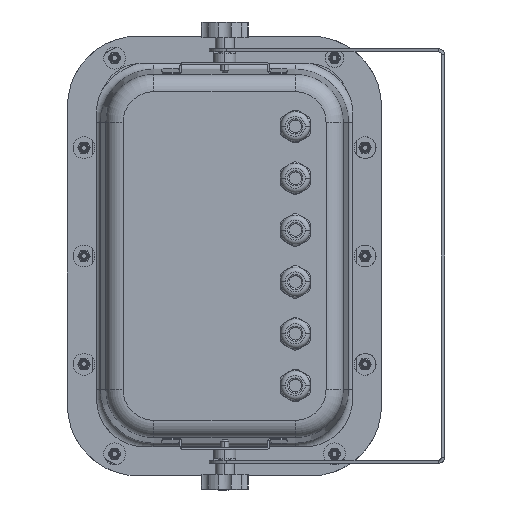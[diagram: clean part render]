
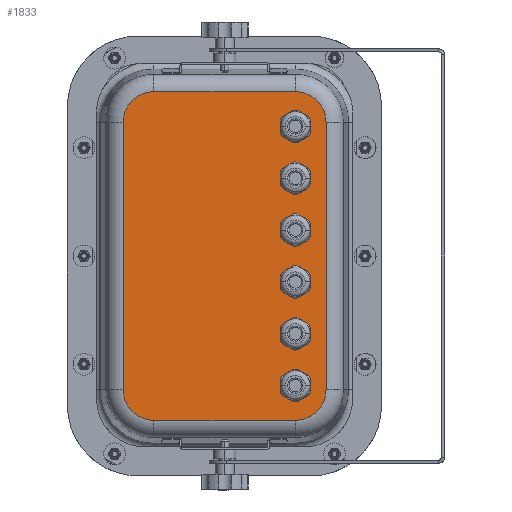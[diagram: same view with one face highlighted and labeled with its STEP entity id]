
A CAD part, left-side view. The second image highlights one B-rep face of the part: STEP entity #1833.
In plain terms, the highlighted planar face has unit normal (-1, 0, 0).
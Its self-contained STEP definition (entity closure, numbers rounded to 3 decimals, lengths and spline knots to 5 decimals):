
#1833=ADVANCED_FACE('1593:216',(#4219,#4220,#4221,#4222,#4223,#4224,#4225),#4226,.T.);
#4219=FACE_OUTER_BOUND('',#22475,.T.);
#4220=FACE_BOUND('',#22476,.T.);
#4221=FACE_BOUND('',#22477,.T.);
#4222=FACE_BOUND('',#22478,.T.);
#4223=FACE_BOUND('',#22479,.T.);
#4224=FACE_BOUND('',#22480,.T.);
#4225=FACE_BOUND('',#22481,.T.);
#4226=PLANE('',#22482);
#22475=EDGE_LOOP('',(#28979,#28980,#28981,#28982,#28983,#28984,#28985,#28986));
#22476=EDGE_LOOP('',(#28987,#28988));
#22477=EDGE_LOOP('',(#28989,#28990));
#22478=EDGE_LOOP('',(#28991,#28992));
#22479=EDGE_LOOP('',(#28993,#28994));
#22480=EDGE_LOOP('',(#28995,#28996));
#22481=EDGE_LOOP('',(#28997,#28998));
#22482=AXIS2_PLACEMENT_3D('',#28999,#29000,#29001);
#28979=ORIENTED_EDGE('',*,*,#37607,.T.);
#28980=ORIENTED_EDGE('',*,*,#37608,.T.);
#28981=ORIENTED_EDGE('',*,*,#37609,.T.);
#28982=ORIENTED_EDGE('',*,*,#37610,.T.);
#28983=ORIENTED_EDGE('',*,*,#37611,.T.);
#28984=ORIENTED_EDGE('',*,*,#37612,.T.);
#28985=ORIENTED_EDGE('',*,*,#37613,.T.);
#28986=ORIENTED_EDGE('',*,*,#37614,.T.);
#28987=ORIENTED_EDGE('',*,*,#37468,.T.);
#28988=ORIENTED_EDGE('',*,*,#37501,.T.);
#28989=ORIENTED_EDGE('',*,*,#37464,.T.);
#28990=ORIENTED_EDGE('',*,*,#37502,.T.);
#28991=ORIENTED_EDGE('',*,*,#37460,.T.);
#28992=ORIENTED_EDGE('',*,*,#37503,.T.);
#28993=ORIENTED_EDGE('',*,*,#37456,.T.);
#28994=ORIENTED_EDGE('',*,*,#37504,.T.);
#28995=ORIENTED_EDGE('',*,*,#37452,.T.);
#28996=ORIENTED_EDGE('',*,*,#37505,.T.);
#28997=ORIENTED_EDGE('',*,*,#37448,.T.);
#28998=ORIENTED_EDGE('',*,*,#37506,.T.);
#28999=CARTESIAN_POINT('',(0.,-0.0965,0.1365));
#29000=DIRECTION('',(-1.0,0.,0.));
#29001=DIRECTION('',(0.,-1.0,0.0));
#37448=EDGE_CURVE('1593:411',#42212,#42209,#42213,.T.);
#37452=EDGE_CURVE('1593:408',#42220,#42217,#42221,.T.);
#37456=EDGE_CURVE('1593:405',#42228,#42225,#42229,.T.);
#37460=EDGE_CURVE('1593:402',#42236,#42233,#42237,.T.);
#37464=EDGE_CURVE('1593:399',#42244,#42241,#42245,.T.);
#37468=EDGE_CURVE('1593:396',#42252,#42249,#42253,.T.);
#37501=EDGE_CURVE('1593:396',#42249,#42252,#42299,.T.);
#37502=EDGE_CURVE('1593:399',#42241,#42244,#42300,.T.);
#37503=EDGE_CURVE('1593:402',#42233,#42236,#42301,.T.);
#37504=EDGE_CURVE('1593:405',#42225,#42228,#42302,.T.);
#37505=EDGE_CURVE('1593:408',#42217,#42220,#42303,.T.);
#37506=EDGE_CURVE('1593:411',#42209,#42212,#42304,.T.);
#37607=EDGE_CURVE('1593:732',#42453,#42454,#42455,.T.);
#37608=EDGE_CURVE('1593:735',#42454,#42456,#42457,.T.);
#37609=EDGE_CURVE('1593:738',#42456,#42458,#42459,.T.);
#37610=EDGE_CURVE('1593:741',#42458,#42460,#42461,.T.);
#37611=EDGE_CURVE('1593:744',#42460,#42462,#42463,.T.);
#37612=EDGE_CURVE('1593:747',#42462,#42464,#42465,.T.);
#37613=EDGE_CURVE('1593:750',#42464,#42466,#42467,.T.);
#37614=EDGE_CURVE('1593:753',#42466,#42453,#42468,.T.);
#42209=VERTEX_POINT('',#51873);
#42212=VERTEX_POINT('',#51876);
#42213=CIRCLE('',#51877,0.0087);
#42217=VERTEX_POINT('',#51881);
#42220=VERTEX_POINT('',#51884);
#42221=CIRCLE('',#51885,0.0087);
#42225=VERTEX_POINT('',#51889);
#42228=VERTEX_POINT('',#51892);
#42229=CIRCLE('',#51893,0.0087);
#42233=VERTEX_POINT('',#51897);
#42236=VERTEX_POINT('',#51900);
#42237=CIRCLE('',#51901,0.0087);
#42241=VERTEX_POINT('',#51905);
#42244=VERTEX_POINT('',#51908);
#42245=CIRCLE('',#51909,0.0087);
#42249=VERTEX_POINT('',#51913);
#42252=VERTEX_POINT('',#51916);
#42253=CIRCLE('',#51917,0.0087);
#42299=CIRCLE('',#51975,0.0087);
#42300=CIRCLE('',#51976,0.0087);
#42301=CIRCLE('',#51977,0.0087);
#42302=CIRCLE('',#51978,0.0087);
#42303=CIRCLE('',#51979,0.0087);
#42304=CIRCLE('',#51980,0.0087);
#42453=VERTEX_POINT('NONE',#52169);
#42454=VERTEX_POINT('NONE',#52170);
#42455=CIRCLE('',#52171,0.01951);
#42456=VERTEX_POINT('NONE',#52172);
#42457=LINE('',#52173,#52174);
#42458=VERTEX_POINT('NONE',#52175);
#42459=CIRCLE('',#52176,0.01951);
#42460=VERTEX_POINT('NONE',#52177);
#42461=LINE('',#52178,#52179);
#42462=VERTEX_POINT('NONE',#52180);
#42463=CIRCLE('',#52181,0.01951);
#42464=VERTEX_POINT('NONE',#52182);
#42465=LINE('',#52183,#52184);
#42466=VERTEX_POINT('NONE',#52185);
#42467=CIRCLE('',#52186,0.01951);
#42468=LINE('',#52187,#52188);
#51873=CARTESIAN_POINT('',(0.,-0.0537,0.0825));
#51876=CARTESIAN_POINT('',(0.,-0.0363,0.0825));
#51877=AXIS2_PLACEMENT_3D('',#60014,#60015,#60016);
#51881=CARTESIAN_POINT('',(0.,-0.0537,0.0495));
#51884=CARTESIAN_POINT('',(0.,-0.0363,0.0495));
#51885=AXIS2_PLACEMENT_3D('',#60026,#60027,#60028);
#51889=CARTESIAN_POINT('',(0.,-0.0537,0.0165));
#51892=CARTESIAN_POINT('',(0.,-0.0363,0.0165));
#51893=AXIS2_PLACEMENT_3D('',#60038,#60039,#60040);
#51897=CARTESIAN_POINT('',(0.,-0.0537,-0.0165));
#51900=CARTESIAN_POINT('',(0.,-0.0363,-0.0165));
#51901=AXIS2_PLACEMENT_3D('',#60050,#60051,#60052);
#51905=CARTESIAN_POINT('',(0.,-0.0537,-0.0495));
#51908=CARTESIAN_POINT('',(0.,-0.0363,-0.0495));
#51909=AXIS2_PLACEMENT_3D('',#60062,#60063,#60064);
#51913=CARTESIAN_POINT('',(0.,-0.0537,-0.0825));
#51916=CARTESIAN_POINT('',(0.,-0.0363,-0.0825));
#51917=AXIS2_PLACEMENT_3D('',#60074,#60075,#60076);
#51975=AXIS2_PLACEMENT_3D('',#60149,#60150,#60151);
#51976=AXIS2_PLACEMENT_3D('',#60152,#60153,#60154);
#51977=AXIS2_PLACEMENT_3D('',#60155,#60156,#60157);
#51978=AXIS2_PLACEMENT_3D('',#60158,#60159,#60160);
#51979=AXIS2_PLACEMENT_3D('',#60161,#60162,#60163);
#51980=AXIS2_PLACEMENT_3D('',#60164,#60165,#60166);
#52169=CARTESIAN_POINT('',(0.,-0.06463,0.08512));
#52170=CARTESIAN_POINT('',(0.,-0.04512,0.10463));
#52171=AXIS2_PLACEMENT_3D('',#60387,#60388,#60389);
#52172=CARTESIAN_POINT('',(0.,0.04512,0.10463));
#52173=CARTESIAN_POINT('',(0.,-0.0965,0.10463));
#52174=VECTOR('',#60390,1.0);
#52175=CARTESIAN_POINT('',(0.,0.06463,0.08512));
#52176=AXIS2_PLACEMENT_3D('',#60391,#60392,#60393);
#52177=CARTESIAN_POINT('',(0.,0.06463,-0.08512));
#52178=CARTESIAN_POINT('',(0.,0.06463,0.1365));
#52179=VECTOR('',#60394,1.0);
#52180=CARTESIAN_POINT('',(0.,0.04512,-0.10463));
#52181=AXIS2_PLACEMENT_3D('',#60395,#60396,#60397);
#52182=CARTESIAN_POINT('',(0.,-0.04512,-0.10463));
#52183=CARTESIAN_POINT('',(0.,-0.0965,-0.10463));
#52184=VECTOR('',#60398,1.0);
#52185=CARTESIAN_POINT('',(0.,-0.06463,-0.08512));
#52186=AXIS2_PLACEMENT_3D('',#60399,#60400,#60401);
#52187=CARTESIAN_POINT('',(0.,-0.06463,0.1365));
#52188=VECTOR('',#60402,1.0);
#60014=CARTESIAN_POINT('',(0.,-0.045,0.0825));
#60015=DIRECTION('',(1.0,0.,0.));
#60016=DIRECTION('',(0.,-1.0,0.));
#60026=CARTESIAN_POINT('',(0.,-0.045,0.0495));
#60027=DIRECTION('',(1.0,0.,0.));
#60028=DIRECTION('',(0.,-1.0,0.));
#60038=CARTESIAN_POINT('',(0.,-0.045,0.0165));
#60039=DIRECTION('',(1.0,0.,0.));
#60040=DIRECTION('',(0.,-1.0,0.));
#60050=CARTESIAN_POINT('',(0.,-0.045,-0.0165));
#60051=DIRECTION('',(1.0,0.,0.));
#60052=DIRECTION('',(0.,-1.0,0.));
#60062=CARTESIAN_POINT('',(0.,-0.045,-0.0495));
#60063=DIRECTION('',(1.0,0.,0.));
#60064=DIRECTION('',(0.,-1.0,0.));
#60074=CARTESIAN_POINT('',(0.,-0.045,-0.0825));
#60075=DIRECTION('',(1.0,0.,0.));
#60076=DIRECTION('',(0.,-1.0,0.));
#60149=CARTESIAN_POINT('',(0.,-0.045,-0.0825));
#60150=DIRECTION('',(1.0,0.,0.));
#60151=DIRECTION('',(0.,-1.0,0.));
#60152=CARTESIAN_POINT('',(0.,-0.045,-0.0495));
#60153=DIRECTION('',(1.0,0.,0.));
#60154=DIRECTION('',(0.,-1.0,0.));
#60155=CARTESIAN_POINT('',(0.,-0.045,-0.0165));
#60156=DIRECTION('',(1.0,0.,0.));
#60157=DIRECTION('',(0.,-1.0,0.));
#60158=CARTESIAN_POINT('',(0.,-0.045,0.0165));
#60159=DIRECTION('',(1.0,0.,0.));
#60160=DIRECTION('',(0.,-1.0,0.));
#60161=CARTESIAN_POINT('',(0.,-0.045,0.0495));
#60162=DIRECTION('',(1.0,0.,0.));
#60163=DIRECTION('',(0.,-1.0,0.));
#60164=CARTESIAN_POINT('',(0.,-0.045,0.0825));
#60165=DIRECTION('',(1.0,0.,0.));
#60166=DIRECTION('',(0.,-1.0,0.));
#60387=CARTESIAN_POINT('',(0.,-0.04512,0.08512));
#60388=DIRECTION('',(-1.0,0.,0.));
#60389=DIRECTION('',(0.,-1.0,0.));
#60390=DIRECTION('',(0.,1.0,0.));
#60391=CARTESIAN_POINT('',(0.,0.04512,0.08512));
#60392=DIRECTION('',(-1.0,0.,0.));
#60393=DIRECTION('',(0.,-1.0,0.));
#60394=DIRECTION('',(0.,0.,-1.0));
#60395=CARTESIAN_POINT('',(0.,0.04512,-0.08512));
#60396=DIRECTION('',(-1.0,0.,0.));
#60397=DIRECTION('',(0.,-1.0,0.));
#60398=DIRECTION('',(0.,-1.0,0.));
#60399=CARTESIAN_POINT('',(0.,-0.04512,-0.08512));
#60400=DIRECTION('',(-1.0,0.,0.));
#60401=DIRECTION('',(0.,-1.0,0.));
#60402=DIRECTION('',(0.,0.0,1.0));
